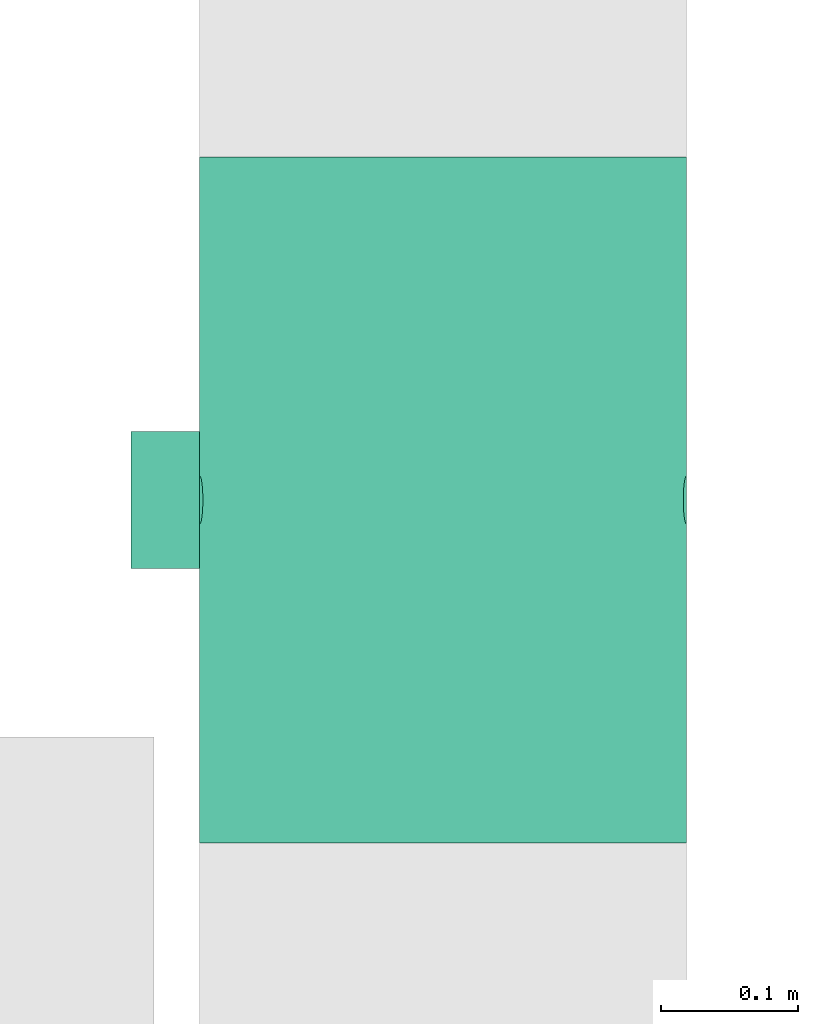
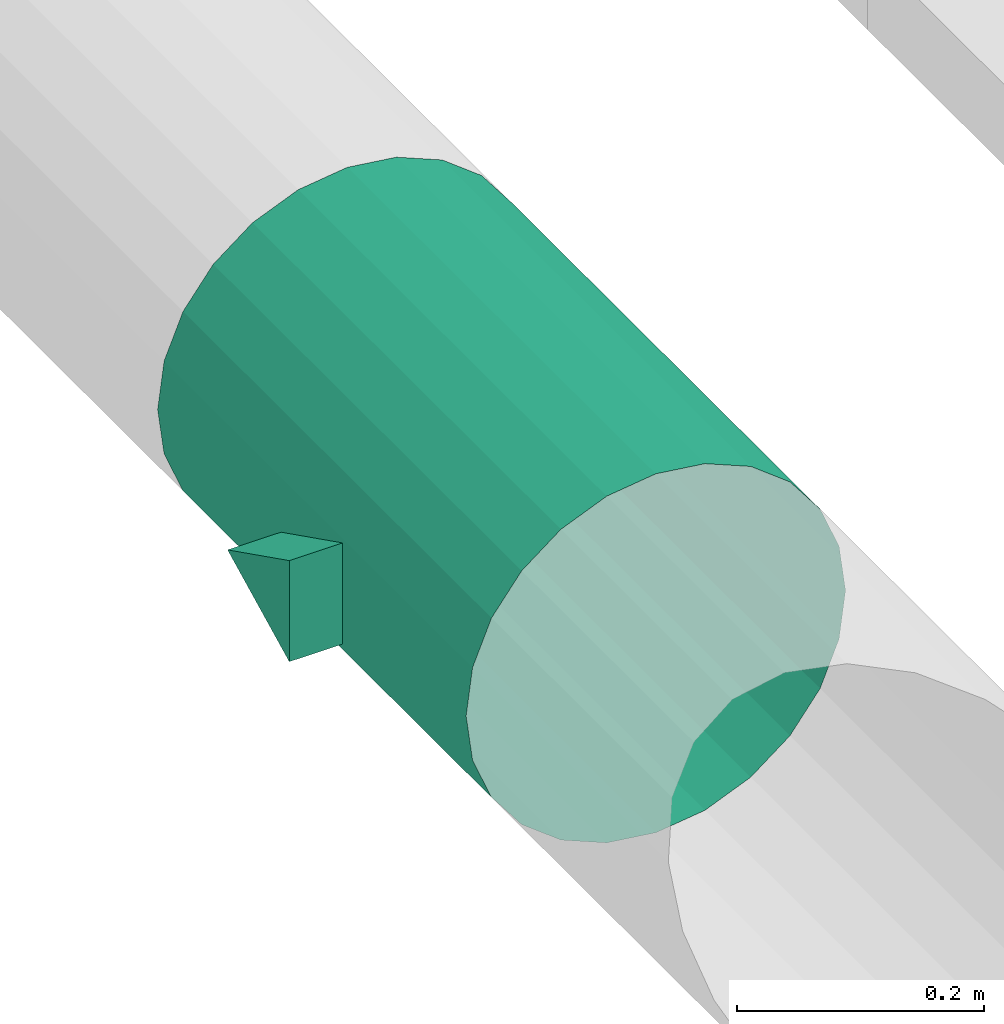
# One storey, part 251 of 374: 1 flow controller.
"""IFC2X3 building model written with IfcOpenShell, lengths in metres."""

import ifcopenshell
import ifcopenshell.guid

model = None  # the IFC model being written
_history = None  # IfcOwnerHistory: only IFC2X3 demands one
_inside = {}  # id of a spatial element -> (the spatial element, [elements in it])
_under = {}  # id of a project, library or spatial element -> (it, [spatial elements below it])
_declared = {}  # id of a project -> (the project, [libraries it declares])
_typed = {}  # id of a type object -> (the type object, [elements of that type])
_made_of = {}  # id of a material, layer set ... -> (it, [elements and type objects made of it])


def new_model(schema):
    """Start an empty IFC model of exactly this schema.

    Asked for "IFC4X3", IfcOpenShell would pick the latest addendum, in which some entities
    have other attributes; the version numbers below select the first issue.
    IFC2X3 requires an IfcOwnerHistory on every rooted entity: one is made here for all.
    """
    global model, _history
    if schema == "IFC4X3":
        model = ifcopenshell.file(schema_version=(4, 3, 0, 0))
    else:
        model = ifcopenshell.file(schema=schema)
    _inside.clear()
    _under.clear()
    _declared.clear()
    _typed.clear()
    _made_of.clear()
    _history = None
    if model.schema == "IFC2X3":
        org = make("IfcOrganization", Name="unknown")
        user = make(
            "IfcPersonAndOrganization",
            ThePerson=make("IfcPerson", FamilyName="unknown"),
            TheOrganization=org,
        )
        app = make(
            "IfcApplication",
            ApplicationDeveloper=org,
            Version="unknown",
            ApplicationFullName="unknown",
            ApplicationIdentifier="unknown",
        )
        _history = make(
            "IfcOwnerHistory",
            OwningUser=user,
            OwningApplication=app,
            ChangeAction="ADDED",
            CreationDate=0,
        )
    return model


def make(cls, **values):
    """One entity of the class cls with the attributes given. An attribute that is None is left unset."""
    return model.create_entity(
        cls, **{name: value for name, value in values.items() if value is not None}
    )


def rooted(cls, **values):
    """An entity with a GlobalId (a new one), such as an element, a storey or a relation."""
    return make(cls, GlobalId=ifcopenshell.guid.new(), OwnerHistory=_history, **values)


def si_unit(unit_type, name, prefix=None):
    """IfcSIUnit, for example si_unit("LENGTHUNIT", "METRE", prefix="MILLI")."""
    return make("IfcSIUnit", UnitType=unit_type, Prefix=prefix, Name=name)


def assignment(units):
    """IfcUnitAssignment: the units of a project."""
    return None if units is None else make("IfcUnitAssignment", Units=units)


def point(xyz):
    """IfcCartesianPoint."""
    return None if xyz is None else make("IfcCartesianPoint", Coordinates=xyz)


def direction(xyz):
    """IfcDirection."""
    return None if xyz is None else make("IfcDirection", DirectionRatios=xyz)


def frame(location, z_axis=None, x_axis=None):
    """IfcAxis2Placement3D, a coordinate frame: its origin and axes. An axis left out is left unset."""
    return make(
        "IfcAxis2Placement3D",
        Location=point(location),
        Axis=direction(z_axis),
        RefDirection=direction(x_axis),
    )


def origin():
    """The frame at (0, 0, 0) with its axes left unset."""
    return frame((0.0, 0.0, 0.0))


def place(relative_to, where):
    """IfcLocalPlacement: puts the frame where relative to a parent placement (None: the world)."""
    return make(
        "IfcLocalPlacement", PlacementRelTo=relative_to, RelativePlacement=where
    )


def context(
    kind, dimensions, precision=None, world=None, true_north=None, identifier=None
):
    """IfcGeometricRepresentationContext, for example the 3D "Model" context."""
    return make(
        "IfcGeometricRepresentationContext",
        ContextIdentifier=identifier,
        ContextType=kind,
        CoordinateSpaceDimension=dimensions,
        Precision=precision,
        WorldCoordinateSystem=world,
        TrueNorth=true_north,
    )


def subcontext(parent, identifier, kind, view, scale=None):
    """IfcGeometricRepresentationSubContext, for example "Body" below "Model"."""
    return make(
        "IfcGeometricRepresentationSubContext",
        ContextIdentifier=identifier,
        ContextType=kind,
        ParentContext=parent,
        TargetScale=scale,
        TargetView=view,
    )


def project(units=None, contexts=None):
    """IfcProject with its units and contexts."""
    return rooted(
        "IfcProject",
        Name="project",
        RepresentationContexts=contexts,
        UnitsInContext=assignment(units),
    )


def spatial(cls, under=None, at=None, **own):
    """A site, building, storey or space (cls), placed at a placement, below another one or the project."""
    s = rooted(cls, ObjectPlacement=at, **own)
    if under is not None:
        _under.setdefault(under.id(), (under, []))[1].append(s)
    return s


def faces_of(points, faces, orient=None, outer=None):
    """IfcFace entities. A face is a list of loops; a loop is a list of indices into points, from 0.

    orient and outer hold one flag for each loop. By default every Orientation is true, the
    first loop of a face is its IfcFaceOuterBound and the others are IfcFaceBound.
    """
    made = []
    for i, loops in enumerate(faces):
        bounds = []
        for j, loop in enumerate(loops):
            is_outer = j == 0 if outer is None else outer[i][j]
            bounds.append(
                make(
                    "IfcFaceOuterBound" if is_outer else "IfcFaceBound",
                    Bound=make("IfcPolyLoop", Polygon=[points[k] for k in loop]),
                    Orientation=True if orient is None else orient[i][j],
                )
            )
        made.append(make("IfcFace", Bounds=bounds))
    return made


def open_shell(faces, orient=None, outer=None):
    """The faces of one IfcOpenShell. surface_model builds it on its shared points."""
    return ("IfcOpenShell", faces, orient, outer)


def surface_model(cls, points, shells):
    """IfcFaceBasedSurfaceModel or IfcShellBasedSurfaceModel (cls): surfaces that need not close."""
    shared = [point(p) for p in points]
    made = [make(c, CfsFaces=faces_of(shared, fs, o, b)) for c, fs, o, b in shells]
    if cls == "IfcFaceBasedSurfaceModel":
        return make(cls, FbsmFaces=made)
    return make(cls, SbsmBoundary=made)


def shape(context_of_items, identifier, shape_type, items):
    """IfcShapeRepresentation: the items that make up one representation, for example the "Body"."""
    return make(
        "IfcShapeRepresentation",
        ContextOfItems=context_of_items,
        RepresentationIdentifier=identifier,
        RepresentationType=shape_type,
        Items=items,
    )


def source(mapping_origin, context_of_items, identifier, shape_type, items):
    """IfcRepresentationMap: a shape defined once, which mapped items show again and again."""
    return make(
        "IfcRepresentationMap",
        MappingOrigin=mapping_origin,
        MappedRepresentation=shape(context_of_items, identifier, shape_type, items),
    )


def transform(
    local_origin,
    x_axis=None,
    y_axis=None,
    z_axis=None,
    scale=None,
    scale2=None,
    scale3=None,
    uniform=True,
):
    """IfcCartesianTransformationOperator3D, or its non-uniform kind. x_axis, y_axis, z_axis: its Axis1, 2, 3."""
    if uniform:
        return make(
            "IfcCartesianTransformationOperator3D",
            Axis1=direction(x_axis),
            Axis2=direction(y_axis),
            LocalOrigin=point(local_origin),
            Scale=scale,
            Axis3=direction(z_axis),
        )
    return make(
        "IfcCartesianTransformationOperator3DnonUniform",
        Axis1=direction(x_axis),
        Axis2=direction(y_axis),
        LocalOrigin=point(local_origin),
        Scale=scale,
        Axis3=direction(z_axis),
        Scale2=scale2,
        Scale3=scale3,
    )


def mapped(mapping_source, mapping_target):
    """IfcMappedItem: shows the shape of a source again, moved by a transform."""
    return make(
        "IfcMappedItem", MappingSource=mapping_source, MappingTarget=mapping_target
    )


def made_of(thing, what):
    """Note that an element or type object is made of a material, layer set ...; save() writes the relation."""
    if what is not None:
        _made_of.setdefault(what.id(), (what, []))[1].append(thing)
    return thing


def element(
    cls,
    number,
    at=None,
    inside=None,
    cuts=None,
    type_object=None,
    material=None,
    context=None,
    identifier="Body",
    shape_type=None,
    held_by="IfcProductDefinitionShape",
    body=None,
    shapes=None,
    **own,
):
    """One element of the class cls, such as IfcWall. Its Tag is "e" and its number.

    at: its placement. inside: the storey or other place that contains it. cuts: it is an
    opening in that element (IfcRelVoidsElement). A single representation is given by context,
    identifier, shape_type and body (its items); several are given by shapes. held_by: the class
    of the entity that holds the representations. save() writes the other relations.
    """
    e = rooted(cls, Tag="e%d" % number, ObjectPlacement=at, **own)
    if body is not None:
        shapes = [shape(context, identifier, shape_type, body)]
    if shapes is not None:
        e.Representation = make(held_by, Representations=shapes)
    if inside is not None:
        _inside.setdefault(inside.id(), (inside, []))[1].append(e)
    if cuts is not None:
        rooted(
            "IfcRelVoidsElement", RelatingBuildingElement=cuts, RelatedOpeningElement=e
        )
    if type_object is not None:
        _typed.setdefault(type_object.id(), (type_object, []))[1].append(e)
    return made_of(e, material)


def aggregate(whole, parts):
    """IfcRelAggregates: a whole, such as a stair, and the parts it consists of."""
    return rooted("IfcRelAggregates", RelatingObject=whole, RelatedObjects=parts)


def save(model, path):
    """Write the relations noted so far, then the file.

    IfcRelAggregates (storeys below a building ...), IfcRelContainedInSpatialStructure (elements
    in a storey), IfcRelDefinesByType, IfcRelAssociatesMaterial and IfcRelDeclares: one each for
    every whole, place, type object, material and project.
    """
    for whole, parts in _under.values():
        aggregate(whole, parts)
    for where, things in _inside.values():
        rooted(
            "IfcRelContainedInSpatialStructure",
            RelatedElements=things,
            RelatingStructure=where,
        )
    for kind, things in _typed.values():
        rooted("IfcRelDefinesByType", RelatedObjects=things, RelatingType=kind)
    for what, things in _made_of.values():
        rooted("IfcRelAssociatesMaterial", RelatedObjects=things, RelatingMaterial=what)
    for by, libraries in _declared.values():
        rooted("IfcRelDeclares", RelatingContext=by, RelatedDefinitions=libraries)
    model.write(path)


model = new_model("IFC2X3")

# Units and contexts
model_context = context("Model", 3, precision=1e-05, world=origin(), true_north=direction((-0.4480736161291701, 0.8939966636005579)))
body_context = subcontext(model_context, "Body", "Model", "MODEL_VIEW")
ifc_project = project(units=[si_unit("LENGTHUNIT", "METRE"), si_unit("AREAUNIT", "SQUARE_METRE"), si_unit("VOLUMEUNIT", "CUBIC_METRE"), si_unit("PLANEANGLEUNIT", "RADIAN"), si_unit("THERMODYNAMICTEMPERATUREUNIT", "KELVIN"), si_unit("MASSUNIT", "GRAM", prefix="KILO"), si_unit("TIMEUNIT", "SECOND")], contexts=[model_context])

# Site, building, storey
site_placement = place(None, origin())
site = spatial("IfcSite", under=ifc_project, at=site_placement, Name="Site 1", CompositionType="ELEMENT")
building_placement = place(site_placement, origin())
building = spatial("IfcBuilding", under=site, at=building_placement, Name="Undefined", CompositionType="ELEMENT")
storey_placement = place(building_placement, origin())
storey = spatial("IfcBuildingStorey", under=building, at=storey_placement, Name="Rez de chauss\x8ee", CompositionType="ELEMENT", Elevation=0.0)

# Flow controller
shared_shape = source(origin(), body_context, "Body", "SurfaceModel", [
    surface_model("IfcFaceBasedSurfaceModel", [(0.07250000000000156, 0.04633679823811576, 0.0), (0.0, 0.046336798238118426, 0.0), (0.0, 0.0, 0.0), (0.07854816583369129, 0.0, 0.0), (0.0, -0.044757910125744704, -0.0119928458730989), (0.09628049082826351, -0.04475791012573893, -0.0119928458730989), (0.0, -0.08488675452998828, -0.035161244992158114), (0.12448854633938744, -0.08488675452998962, -0.03516124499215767), (0.0, -0.11765181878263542, -0.06792630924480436), (0.16125000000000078, -0.1176518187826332, -0.0679263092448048), (0.0, -0.1408202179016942, -0.10805515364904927), (0.20405961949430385, -0.14082021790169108, -0.10805515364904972), (0.0, -0.15281306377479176, -0.15281306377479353), (0.25, -0.15281306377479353, -0.1528130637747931), (0.0, -0.1528130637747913, -0.19914986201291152), (0.29594038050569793, -0.15281306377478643, -0.19914986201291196), (0.0, -0.14082021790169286, -0.24390777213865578), (0.338750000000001, -0.14082021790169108, -0.24390777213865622), (0.0, -0.11765181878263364, -0.2840366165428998), (0.37551145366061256, -0.1176518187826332, -0.28403661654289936), (0.0, -0.0848867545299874, -0.31680168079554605), (0.40371950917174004, -0.08488675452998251, -0.3168016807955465), (0.0, -0.044757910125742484, -0.3399700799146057), (0.4214518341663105, -0.04475791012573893, -0.33997007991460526), (0.0, 1.776356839e-15, -0.35196292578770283), (0.4275000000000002, 0.0, -0.35196292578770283), (0.0, 0.0463367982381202, -0.3519629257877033), (0.4214518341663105, 0.04633679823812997, -0.3519629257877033), (0.0, 0.09109470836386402, -0.3399700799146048), (0.40371950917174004, 0.0910947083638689, -0.33997007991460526), (0.0, 0.13122355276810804, -0.31680168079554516), (0.37551145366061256, 0.13122355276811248, -0.3168016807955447), (0.0, 0.16398861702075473, -0.2840366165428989), (0.338750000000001, 0.16398861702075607, -0.284036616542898), (0.0, 0.18715701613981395, -0.243907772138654), (0.29594038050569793, 0.18715701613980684, -0.24390777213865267), (0.0, 0.19914986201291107, -0.19914986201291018), (0.25, 0.1991498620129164, -0.19914986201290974), (0.0, 0.19914986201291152, -0.15281306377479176), (0.20405961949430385, 0.1991498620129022, -0.15281306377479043), (0.0, 0.18715701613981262, -0.1080551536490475), (0.16125000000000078, 0.18715701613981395, -0.10805515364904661), (0.0, 0.1639886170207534, -0.06792630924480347), (0.12448854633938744, 0.16398861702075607, -0.06792630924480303), (0.0, 0.1312235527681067, -0.03516124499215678), (0.09628049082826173, 0.13122355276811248, -0.035161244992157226), (0.0, 0.09109470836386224, -0.011992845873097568), (0.07854816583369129, 0.0910947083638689, -0.011992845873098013), (0.5, 0.04633679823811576, 0.0), (0.5, 0.0, 0.0), (0.5, -0.04475791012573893, -0.0119928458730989), (0.5, -0.08488675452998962, -0.03516124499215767), (0.5, -0.1176518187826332, -0.0679263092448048), (0.5, -0.14082021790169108, -0.10805515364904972), (0.5, -0.15281306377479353, -0.1528130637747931), (0.5, -0.15281306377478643, -0.19914986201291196), (0.5, -0.14082021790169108, -0.24390777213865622), (0.5, -0.1176518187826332, -0.28403661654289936), (0.5, -0.08488675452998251, -0.3168016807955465), (0.5, -0.04475791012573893, -0.33997007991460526), (0.5, 0.0, -0.35196292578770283), (0.5, 0.04633679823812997, -0.3519629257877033), (0.5, 0.0910947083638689, -0.33997007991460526), (0.5, 0.13122355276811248, -0.3168016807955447), (0.5, 0.16398861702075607, -0.284036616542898), (0.5, 0.18715701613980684, -0.24390777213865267), (0.5, 0.1991498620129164, -0.19914986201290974), (0.5, 0.1991498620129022, -0.15281306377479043), (0.5, 0.18715701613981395, -0.10805515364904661), (0.5, 0.16398861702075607, -0.06792630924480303), (0.5, 0.13122355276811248, -0.035161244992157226), (0.5, 0.0910947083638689, -0.011992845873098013), (0.25, 0.2014667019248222, -0.1815517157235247), (0.24540596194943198, 0.2013877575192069, -0.18215135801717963), (0.24540596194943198, -0.15057516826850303, -0.13581455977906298), (0.25, -0.15049622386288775, -0.13521491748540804), (0.24112500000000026, 0.20115630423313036, -0.18390942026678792), (0.24112500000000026, -0.15080662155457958, -0.13757262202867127), (0.23744885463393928, 0.2007881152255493, -0.18670609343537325), (0.23744885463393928, -0.15117481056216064, -0.1403692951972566), (0.23462804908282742, 0.20030828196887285, -0.19035078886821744), (0.23462804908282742, -0.1516546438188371, -0.14401399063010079), (0.23285481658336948, 0.199749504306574, -0.19459512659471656), (0.23285481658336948, -0.15221342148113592, -0.1482583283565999), (0.2322500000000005, 0.1991498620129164, -0.19914986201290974), (0.2322500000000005, -0.15281306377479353, -0.1528130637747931), (0.23285481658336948, 0.1985502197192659, -0.20370459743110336), (0.23285481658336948, -0.15341270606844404, -0.1573677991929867), (0.23462804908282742, 0.19799144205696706, -0.2079489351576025), (0.23462804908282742, -0.15397148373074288, -0.16161213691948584), (0.23744885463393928, 0.1975116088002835, -0.2115936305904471), (0.23744885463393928, -0.15445131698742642, -0.16525683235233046), (0.24112500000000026, 0.19714341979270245, -0.21439030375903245), (0.24112500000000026, -0.1548195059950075, -0.1680535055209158), (0.24540596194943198, 0.196911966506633, -0.2161483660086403), (0.24540596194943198, -0.15505095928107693, -0.16981156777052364), (0.25, 0.1968330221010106, -0.21674800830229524), (0.25, -0.15512990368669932, -0.1704112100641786), (0.2545940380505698, 0.196911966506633, -0.2161483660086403), (0.2545940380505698, -0.15505095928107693, -0.16981156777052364), (0.2588750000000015, 0.19714341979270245, -0.21439030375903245), (0.2588750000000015, -0.1548195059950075, -0.1680535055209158), (0.2625511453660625, 0.1975116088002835, -0.2115936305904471), (0.2625511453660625, -0.15445131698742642, -0.16525683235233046), (0.26537195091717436, 0.19799144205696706, -0.2079489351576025), (0.26537195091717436, -0.15397148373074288, -0.16161213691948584), (0.2671451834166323, 0.1985502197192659, -0.20370459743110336), (0.2671451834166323, -0.15341270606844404, -0.1573677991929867), (0.26775000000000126, 0.1991498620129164, -0.19914986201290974), (0.26775000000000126, -0.15281306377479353, -0.1528130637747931), (0.2671451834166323, 0.199749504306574, -0.19459512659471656), (0.2671451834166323, -0.15221342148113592, -0.1482583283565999), (0.26537195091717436, 0.20030828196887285, -0.19035078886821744), (0.26537195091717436, -0.1516546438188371, -0.14401399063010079), (0.2625511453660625, 0.2007881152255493, -0.18670609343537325), (0.2625511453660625, -0.15117481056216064, -0.1403692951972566), (0.2588750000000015, 0.20115630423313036, -0.18390942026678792), (0.2588750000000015, -0.15080662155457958, -0.13757262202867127), (0.2545940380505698, 0.2013877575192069, -0.18215135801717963), (0.2545940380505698, -0.15057516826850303, -0.13581455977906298), (0.3000000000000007, -0.15933937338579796, -0.202385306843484), (0.3000000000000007, -0.1462867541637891, -0.10324082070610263), (0.3000000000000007, -0.19585899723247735, -0.09671451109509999), (0.3000000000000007, -0.2089116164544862, -0.19585899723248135), (0.20000000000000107, -0.15281306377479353, -0.1528130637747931), (0.20000000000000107, -0.20238530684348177, -0.14628675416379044)], [open_shell([[[0, 1, 2, 3]], [[3, 2, 4, 5]], [[5, 4, 6, 7]], [[7, 6, 8, 9]], [[9, 8, 10, 11]], [[11, 10, 12, 13]], [[13, 12, 14, 15]], [[15, 14, 16, 17]], [[17, 16, 18, 19]], [[19, 18, 20, 21]], [[21, 20, 22, 23]], [[23, 22, 24, 25]], [[25, 24, 26, 27]], [[27, 26, 28, 29]], [[29, 28, 30, 31]], [[31, 30, 32, 33]], [[33, 32, 34, 35]], [[35, 34, 36, 37]], [[37, 36, 38, 39]], [[39, 38, 40, 41]], [[41, 40, 42, 43]], [[43, 42, 44, 45]], [[45, 44, 46, 47]], [[47, 46, 1, 0]], [[48, 0, 3, 49]], [[49, 3, 5, 50]], [[50, 5, 7, 51]], [[51, 7, 9, 52]], [[52, 9, 11, 53]], [[53, 11, 13, 54]], [[54, 13, 15, 55]], [[55, 15, 17, 56]], [[56, 17, 19, 57]], [[57, 19, 21, 58]], [[58, 21, 23, 59]], [[59, 23, 25, 60]], [[60, 25, 27, 61]], [[61, 27, 29, 62]], [[62, 29, 31, 63]], [[63, 31, 33, 64]], [[64, 33, 35, 65]], [[65, 35, 37, 66]], [[66, 37, 39, 67]], [[67, 39, 41, 68]], [[68, 41, 43, 69]], [[69, 43, 45, 70]], [[70, 45, 47, 71]], [[71, 47, 0, 48]], [[72, 73, 74, 75]], [[73, 76, 77, 74]], [[76, 78, 79, 77]], [[78, 80, 81, 79]], [[80, 82, 83, 81]], [[82, 84, 85, 83]], [[84, 86, 87, 85]], [[86, 88, 89, 87]], [[88, 90, 91, 89]], [[90, 92, 93, 91]], [[92, 94, 95, 93]], [[94, 96, 97, 95]], [[96, 98, 99, 97]], [[98, 100, 101, 99]], [[100, 102, 103, 101]], [[102, 104, 105, 103]], [[104, 106, 107, 105]], [[106, 108, 109, 107]], [[108, 110, 111, 109]], [[110, 112, 113, 111]], [[112, 114, 115, 113]], [[114, 116, 117, 115]], [[116, 118, 119, 117]], [[118, 72, 75, 119]], [[37, 73, 72]], [[37, 76, 73]], [[37, 78, 76]], [[37, 80, 78]], [[37, 82, 80]], [[37, 84, 82]], [[37, 86, 84]], [[37, 88, 86]], [[37, 90, 88]], [[37, 92, 90]], [[37, 94, 92]], [[37, 96, 94]], [[37, 98, 96]], [[37, 100, 98]], [[37, 102, 100]], [[37, 104, 102]], [[37, 106, 104]], [[37, 108, 106]], [[37, 110, 108]], [[37, 112, 110]], [[37, 114, 112]], [[37, 116, 114]], [[37, 118, 116]], [[37, 72, 118]], [[13, 119, 75]], [[13, 117, 119]], [[13, 115, 117]], [[13, 113, 115]], [[13, 111, 113]], [[13, 109, 111]], [[13, 107, 109]], [[13, 105, 107]], [[13, 103, 105]], [[13, 101, 103]], [[13, 99, 101]], [[13, 97, 99]], [[13, 95, 97]], [[13, 93, 95]], [[13, 91, 93]], [[13, 89, 91]], [[13, 87, 89]], [[13, 85, 87]], [[13, 83, 85]], [[13, 81, 83]], [[13, 79, 81]], [[13, 77, 79]], [[13, 74, 77]], [[13, 75, 74]], [[120, 121, 122, 123]], [[121, 124, 125, 122]], [[124, 120, 123, 125]], [[123, 122, 125]], [[124, 121, 120]]])]),
])
flow_controller_placement = place(storey_placement, origin())
element("IfcFlowController", 1, at=flow_controller_placement, inside=storey, Name="Clapet de réglage cylindrique", ObjectType="Clapet de réglage cylindrique", context=body_context, shape_type="MappedRepresentation", body=[
    mapped(shared_shape, transform((45.89027681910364, 13.435183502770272, 3.9714518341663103), x_axis=(0.0, -1.0, 0.0), y_axis=(0.9914448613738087, 0.0, 0.13052619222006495), z_axis=(-0.13052619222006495, 0.0, 0.9914448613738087))),
])

save(model, "model.ifc")
